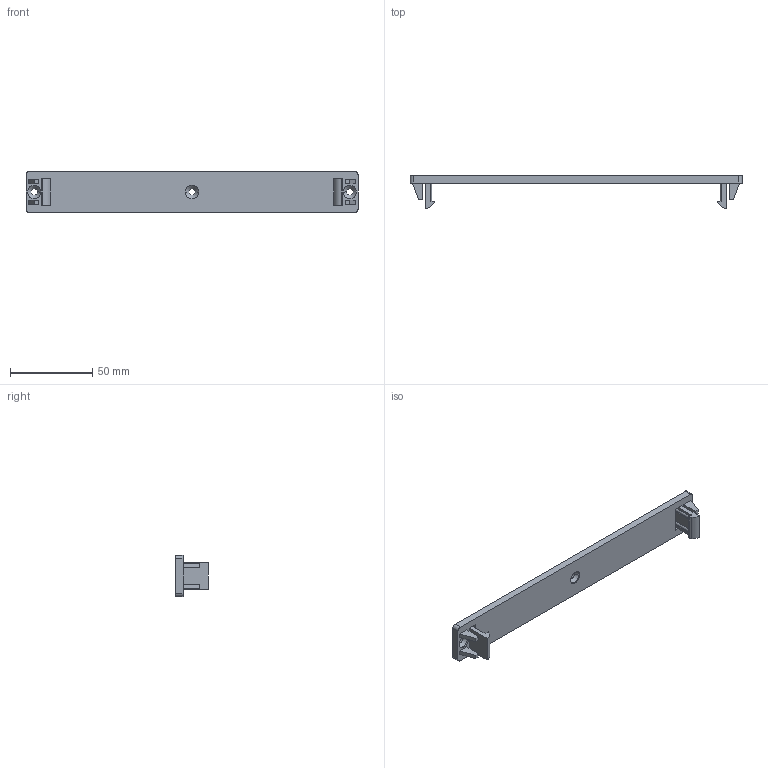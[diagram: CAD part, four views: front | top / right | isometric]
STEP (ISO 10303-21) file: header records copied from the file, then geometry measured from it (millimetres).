
FILE_DESCRIPTION (( 'STEP AP214' ), '1' );
FILE_NAME ('Traversenaufnahme hinterliegend.STEP', '2010-09-27T09:12:04', ( 'Grass' ), ( '' ), 'SwSTEP 2.0', 'SolidWorks 2010', '' );
FILE_SCHEMA (( 'AUTOMOTIVE_DESIGN' ));
Length unit declared in the file: millimetre
Products named in the file (1): Traversenaufnahme hinterliegend
Bounding box: 202 x 19.9 x 25 mm (x, y, z)
Volume: 24002.7 mm3; surface area: 14210.7 mm2
Topology: 1 solids, 1 shells, 92 faces, 242 edges, 156 vertices
Faces by surface type: plane 54, cylinder 32, cone 6
Entity records: 2902 total; most frequent: CARTESIAN_POINT 565, ORIENTED_EDGE 484, DIRECTION 464, EDGE_CURVE 242, LINE 178, VECTOR 178, VERTEX_POINT 156, AXIS2_PLACEMENT_3D 143
